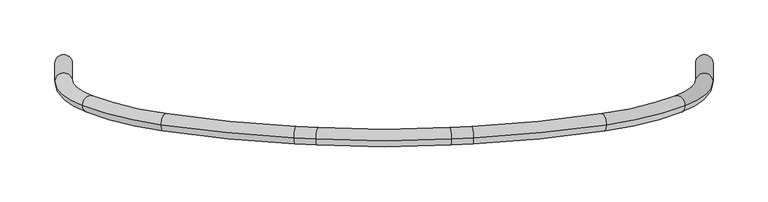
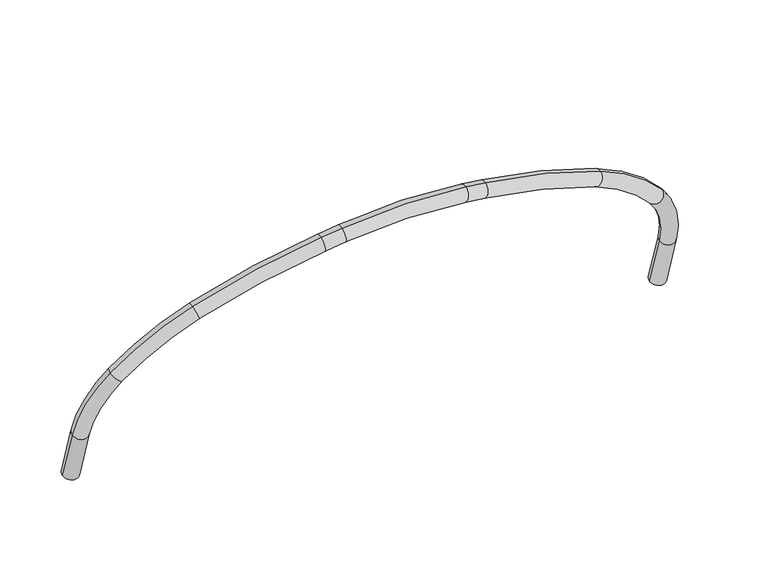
"""IFC4 building model written with IfcOpenShell, lengths in millimetres: furniture geometry, Norr11 - Fave Chair : Norr11 - Fave Chair."""

from ifc_helpers import new_model, si_unit, point, frame, origin, place, context, project, spatial, circle_curve, ellipse_curve, trimmed, source, transform, mapped, element, save
from ifc_brep_helpers import plane_surface, cylinder_surface, revolved_surface, advanced_brep


def furniture_c52432c8(model_context):
    return source(origin(), model_context, "Body", "AdvancedBrep", [
        advanced_brep(
        [(284.0372531, 404.7890291, 79.2824473), (300.0372531, 404.7890291, 79.2824473), (284.0372531, 388.1687806, 131.7111354), (300.0372531, 388.1687806, 131.7111354), (274.7474474, 365.9741223, 201.7243375), (262.1392754, 368.950834, 192.3342797), (203.1065204, 348.4431812, 257.0258115), (196.0925821, 352.7888336, 243.3174209), (81.8908427, 336.5414631, 294.5698628), (79.1124718, 341.3029903, 279.5495927), (59.0350596, 340.2331934, 282.9242743), (61.8134305, 335.4716662, 297.9445444), (-61.8134305, 335.4716662, 297.9445444), (-59.0350596, 340.2331934, 282.9242743), (-79.1124718, 341.3029903, 279.5495927), (-81.8908427, 336.5414631, 294.5698628), (-203.1065204, 348.4431812, 257.0258115), (-196.0925821, 352.7888336, 243.3174209), (-274.7474474, 365.9741223, 201.7243375), (-262.1392754, 368.950834, 192.3342797), (-300.0372531, 388.1687806, 131.7111354), (-284.0372531, 388.1687806, 131.7111354), (-284.0372531, 404.7890291, 79.2824473), (-300.0372531, 404.7890291, 79.2824473)],
        [
            (0, 1, circle_curve(frame((292.0372531, 404.7890291, 79.2824473), z_axis=(0.0, 0.30218633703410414, -0.9532488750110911), x_axis=(1.0, 0.0, 0.0)), 8.0)),
            (1, 0, circle_curve(frame((292.0372531, 404.7890291, 79.2824473), z_axis=(0.0, 0.30218633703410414, -0.9532488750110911), x_axis=(1.0, 0.0, 0.0)), 8.0)),
            (0, 2),
            (2, 3, circle_curve(frame((292.0372531, 388.1687806, 131.7111354), z_axis=(0.0, 0.30218633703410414, -0.9532488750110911), x_axis=(1.0, 0.0, 0.0)), 8.0)),
            (3, 1),
            (3, 2, circle_curve(frame((292.0372531, 388.1687806, 131.7111354), z_axis=(0.0, 0.30218633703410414, -0.9532488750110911), x_axis=(1.0, 0.0, 0.0)), 8.0)),
            (4, 3, circle_curve(frame((180.7396657, 388.1687806, 131.7111354), z_axis=(0.0, 0.9532488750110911, 0.30218633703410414), x_axis=(1.0, 0.0, 0.0)), 119.2975873)),
            (2, 5, circle_curve(frame((180.7396657, 388.1687806, 131.7111354), z_axis=(0.0, -0.9532488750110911, -0.30218633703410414), x_axis=(1.0, 0.0, 0.0)), 103.2975873)),
            (5, 4, circle_curve(frame((268.4433614, 367.4624781, 197.0293086), z_axis=(0.6156614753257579, 0.23812608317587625, -0.7511703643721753), x_axis=(0.7880107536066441, -0.18604448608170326, 0.5868786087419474)), 8.0)),
            (4, 5, circle_curve(frame((268.4433614, 367.4624781, 197.0293086), z_axis=(0.6156614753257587, 0.23812608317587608, -0.7511703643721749), x_axis=(0.7880107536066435, -0.18604448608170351, 0.5868786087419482)), 8.0)),
            (6, 4, circle_curve(frame((113.2845588, 404.0945159, 81.4732939), z_axis=(0.0, 0.9532488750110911, 0.30218633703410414), x_axis=(0.7880107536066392, -0.18604448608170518, 0.5868786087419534)), 204.8993468)),
            (5, 7, circle_curve(frame((113.2845588, 404.0945159, 81.4732939), z_axis=(0.0, -0.9532488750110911, -0.30218633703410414), x_axis=(0.7880107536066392, -0.18604448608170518, 0.5868786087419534)), 188.8993468)),
            (7, 6, circle_curve(frame((199.5995512, 350.6160074, 250.1716162), z_axis=(0.8987940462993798, 0.13246977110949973, -0.41787680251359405), x_axis=(0.4383711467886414, -0.2716032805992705, 0.8567744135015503)), 8.0)),
            (6, 7, circle_curve(frame((199.5995512, 350.6160074, 250.1716162), z_axis=(0.8987940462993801, 0.13246977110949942, -0.41787680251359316), x_axis=(0.43837114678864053, -0.2716032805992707, 0.8567744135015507)), 8.0)),
            (8, 6, circle_curve(frame((2.3779783, 472.8093283, -135.2880536), z_axis=(0.0, 0.9532488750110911, 0.30218633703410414), x_axis=(0.43837114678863, -0.2716032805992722, 0.8567744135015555)), 457.8963365)),
            (7, 9, circle_curve(frame((2.3779783, 472.8093283, -135.2880536), z_axis=(0.0, -0.9532488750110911, -0.30218633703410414), x_axis=(0.43837114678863, -0.2716032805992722, 0.8567744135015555)), 441.8963365)),
            (9, 8, circle_curve(frame((80.5016572, 338.9222267, 287.0597277), z_axis=(0.9848077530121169, 0.0524741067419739, -0.16552993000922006), x_axis=(0.17364817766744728, -0.29759544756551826, 0.938766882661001)), 8.0)),
            (8, 9, circle_curve(frame((80.5016572, 338.9222267, 287.0597277), z_axis=(0.9848077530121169, 0.05247410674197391, -0.1655299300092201), x_axis=(0.17364817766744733, -0.29759544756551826, 0.938766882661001)), 8.0)),
            (9, 10),
            (10, 11, circle_curve(frame((60.424245, 337.8524298, 290.4344094), z_axis=(0.984807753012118, 0.052474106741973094, -0.1655299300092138), x_axis=(0.17364817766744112, -0.2975954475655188, 0.938766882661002)), 8.0)),
            (11, 8),
            (11, 10, circle_curve(frame((60.424245, 337.8524298, 290.4344094), z_axis=(0.984807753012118, 0.052474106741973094, -0.1655299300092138), x_axis=(0.17364817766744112, -0.2975954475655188, 0.938766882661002)), 8.0)),
            (12, 11, circle_curve(frame((0.0, 441.4065269, -36.2277008), z_axis=(0.0, 0.9532488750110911, 0.30218633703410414), x_axis=(0.17364817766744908, -0.29759544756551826, 0.9387668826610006)), 355.9693587)),
            (10, 13, circle_curve(frame((0.0, 441.4065269, -36.2277008), z_axis=(0.0, -0.9532488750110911, -0.30218633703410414), x_axis=(0.17364817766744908, -0.29759544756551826, 0.9387668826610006)), 339.9693587)),
            (13, 12, circle_curve(frame((-60.424245, 337.8524298, 290.4344094), z_axis=(0.9848077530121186, -0.05247410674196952, 0.16552993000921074), x_axis=(-0.17364817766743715, -0.2975954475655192, 0.9387668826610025)), 8.0)),
            (12, 13, circle_curve(frame((-60.424245, 337.8524298, 290.4344094), z_axis=(0.9848077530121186, -0.05247410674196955, 0.1655299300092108), x_axis=(-0.1736481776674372, -0.2975954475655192, 0.9387668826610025)), 8.0)),
            (13, 14),
            (14, 15, circle_curve(frame((-80.5016572, 338.9222267, 287.0597277), z_axis=(0.9848077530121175, -0.052474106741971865, 0.1655299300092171), x_axis=(-0.17364817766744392, -0.2975954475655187, 0.9387668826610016)), 8.0)),
            (15, 12),
            (15, 14, circle_curve(frame((-80.5016572, 338.9222267, 287.0597277), z_axis=(0.9848077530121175, -0.052474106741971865, 0.1655299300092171), x_axis=(-0.17364817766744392, -0.2975954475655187, 0.9387668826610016)), 8.0)),
            (16, 15, circle_curve(frame((-2.3779783, 472.8093283, -135.2880536), z_axis=(0.0, 0.9532488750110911, 0.30218633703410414), x_axis=(-0.17364817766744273, -0.2975954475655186, 0.9387668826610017)), 457.8963365)),
            (14, 17, circle_curve(frame((-2.3779783, 472.8093283, -135.2880536), z_axis=(0.0, -0.9532488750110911, -0.30218633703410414), x_axis=(-0.17364817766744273, -0.2975954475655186, 0.9387668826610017)), 441.8963365)),
            (17, 16, circle_curve(frame((-199.5995512, 350.6160074, 250.1716162), z_axis=(0.8987940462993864, -0.1324697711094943, 0.4178768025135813), x_axis=(-0.43837114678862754, -0.27160328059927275, 0.8567744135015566)), 8.0)),
            (16, 17, circle_curve(frame((-199.5995512, 350.6160074, 250.1716162), z_axis=(0.8987940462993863, -0.13246977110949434, 0.4178768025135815), x_axis=(-0.4383711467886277, -0.27160328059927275, 0.8567744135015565)), 8.0)),
            (18, 16, circle_curve(frame((-113.2845588, 404.0945159, 81.4732939), z_axis=(0.0, 0.9532488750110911, 0.30218633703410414), x_axis=(-0.4383711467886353, -0.2716032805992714, 0.856774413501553)), 204.8993468)),
            (17, 19, circle_curve(frame((-113.2845588, 404.0945159, 81.4732939), z_axis=(0.0, -0.9532488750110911, -0.30218633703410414), x_axis=(-0.4383711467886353, -0.2716032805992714, 0.856774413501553)), 188.8993468)),
            (19, 18, circle_curve(frame((-268.4433614, 367.4624781, 197.0293086), z_axis=(0.6156614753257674, -0.23812608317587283, 0.7511703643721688), x_axis=(-0.7880107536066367, -0.18604448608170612, 0.5868786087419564)), 8.0)),
            (18, 19, circle_curve(frame((-268.4433614, 367.4624781, 197.0293086), z_axis=(0.6156614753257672, -0.23812608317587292, 0.751170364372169), x_axis=(-0.788010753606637, -0.18604448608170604, 0.5868786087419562)), 8.0)),
            (20, 18, circle_curve(frame((-180.7396657, 388.1687806, 131.7111354), z_axis=(0.0, 0.9532488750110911, 0.30218633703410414), x_axis=(-0.7880107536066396, -0.186044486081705, 0.5868786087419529)), 119.2975873)),
            (19, 21, circle_curve(frame((-180.7396657, 388.1687806, 131.7111354), z_axis=(0.0, -0.9532488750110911, -0.30218633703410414), x_axis=(-0.7880107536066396, -0.186044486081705, 0.5868786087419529)), 103.2975873)),
            (21, 20, circle_curve(frame((-292.0372531, 388.1687806, 131.7111354), z_axis=(0.0, -0.3021863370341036, 0.9532488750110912), x_axis=(-1.0, 0.0, 0.0)), 8.0)),
            (20, 21, circle_curve(frame((-292.0372531, 388.1687806, 131.7111354), z_axis=(0.0, -0.3021863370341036, 0.9532488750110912), x_axis=(-1.0, 0.0, 0.0)), 8.0)),
            (22, 23, circle_curve(frame((-292.0372531, 404.7890291, 79.2824473), z_axis=(0.0, 0.302186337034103, -0.9532488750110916), x_axis=(-1.0, 0.0, 0.0)), 8.0)),
            (23, 22, circle_curve(frame((-292.0372531, 404.7890291, 79.2824473), z_axis=(0.0, 0.302186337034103, -0.9532488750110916), x_axis=(-1.0, 0.0, 0.0)), 8.0)),
            (21, 22),
            (23, 20),
        ],
        [
            plane_surface(frame((284.0678943, 409.968241, 80.9242924), z_axis=(0.0, 0.30218633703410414, -0.9532488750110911), x_axis=(0.0, 0.9532488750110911, 0.30218633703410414))),
            cylinder_surface(frame((292.0372531, 404.7890291, 79.2824473), z_axis=(0.0, 0.30218633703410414, -0.9532488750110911), x_axis=(1.0, 0.0, 0.0)), 8.0),
            revolved_surface(trimmed(ellipse_curve(frame((292.0372531, 388.1687806, 131.7111354), z_axis=(0.0, 0.3021863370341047, -0.9532488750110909), x_axis=(1.0, 0.0, 0.0)), 8.0, 8.0), [point((284.0372531, 388.1687806, 131.7111354))], [point((300.0372531, 388.1687806, 131.7111354))], True, "CARTESIAN"), (180.7396657, 393.3479924, 133.3529805), (0.0, -0.9532488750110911, -0.30218633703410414)),
            revolved_surface(trimmed(ellipse_curve(frame((292.0372531, 388.1687806, 131.7111354), z_axis=(0.0, 0.3021863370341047, -0.9532488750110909), x_axis=(1.0, 0.0, 0.0)), 8.0, 8.0), [point((300.0372531, 388.1687806, 131.7111354))], [point((284.0372531, 388.1687806, 131.7111354))], True, "CARTESIAN"), (180.7396657, 393.3479924, 133.3529805), (0.0, -0.9532488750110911, -0.30218633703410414)),
            revolved_surface(trimmed(ellipse_curve(frame((268.4433614, 367.4624781, 197.0293086), z_axis=(0.6156614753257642, 0.23812608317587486, -0.7511703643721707), x_axis=(0.7880107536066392, -0.1860444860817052, 0.5868786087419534)), 8.0, 8.0), [point((262.1392754, 368.950834, 192.3342797))], [point((274.7474474, 365.9741223, 201.7243375))], True, "CARTESIAN"), (113.2845588, 409.2737278, 83.1151391), (0.0, -0.9532488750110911, -0.30218633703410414)),
            revolved_surface(trimmed(ellipse_curve(frame((268.4433614, 367.4624781, 197.0293086), z_axis=(0.6156614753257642, 0.23812608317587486, -0.7511703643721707), x_axis=(0.7880107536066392, -0.1860444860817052, 0.5868786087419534)), 8.0, 8.0), [point((274.7474474, 365.9741223, 201.7243375))], [point((262.1392754, 368.950834, 192.3342797))], True, "CARTESIAN"), (113.2845588, 409.2737278, 83.1151391), (0.0, -0.9532488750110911, -0.30218633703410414)),
            revolved_surface(trimmed(ellipse_curve(frame((199.5995512, 350.6160074, 250.1716162), z_axis=(0.8987940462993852, 0.13246977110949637, -0.4178768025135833), x_axis=(0.43837114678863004, -0.27160328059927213, 0.8567744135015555)), 8.0, 8.0), [point((196.0925821, 352.7888336, 243.3174209))], [point((203.1065204, 348.4431812, 257.0258115))], True, "CARTESIAN"), (2.3779783, 477.9885402, -133.6462084), (0.0, -0.9532488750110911, -0.30218633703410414)),
            revolved_surface(trimmed(ellipse_curve(frame((199.5995512, 350.6160074, 250.1716162), z_axis=(0.8987940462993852, 0.13246977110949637, -0.4178768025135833), x_axis=(0.43837114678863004, -0.27160328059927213, 0.8567744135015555)), 8.0, 8.0), [point((203.1065204, 348.4431812, 257.0258115))], [point((196.0925821, 352.7888336, 243.3174209))], True, "CARTESIAN"), (2.3779783, 477.9885402, -133.6462084), (0.0, -0.9532488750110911, -0.30218633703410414)),
            cylinder_surface(frame((80.5016572, 338.9222267, 287.0597277), z_axis=(0.984807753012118, 0.052474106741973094, -0.1655299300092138), x_axis=(0.17364817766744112, -0.2975954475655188, 0.938766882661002)), 8.0),
            revolved_surface(trimmed(ellipse_curve(frame((60.424245, 337.8524298, 290.4344094), z_axis=(0.9848077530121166, 0.05247410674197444, -0.16552993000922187), x_axis=(0.17364817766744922, -0.2975954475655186, 0.9387668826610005)), 8.0, 8.0), [point((59.0350596, 340.2331934, 282.9242743))], [point((61.8134305, 335.4716662, 297.9445444))], True, "CARTESIAN"), (0.0, 446.5857387, -34.5858557), (0.0, -0.9532488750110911, -0.30218633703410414)),
            revolved_surface(trimmed(ellipse_curve(frame((60.424245, 337.8524298, 290.4344094), z_axis=(0.9848077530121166, 0.05247410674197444, -0.16552993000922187), x_axis=(0.17364817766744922, -0.2975954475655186, 0.9387668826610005)), 8.0, 8.0), [point((61.8134305, 335.4716662, 297.9445444))], [point((59.0350596, 340.2331934, 282.9242743))], True, "CARTESIAN"), (0.0, 446.5857387, -34.5858557), (0.0, -0.9532488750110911, -0.30218633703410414)),
            cylinder_surface(frame((-60.424245, 337.8524298, 290.4344094), z_axis=(0.9848077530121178, -0.05247410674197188, 0.16552993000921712), x_axis=(-0.17364817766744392, -0.2975954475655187, 0.9387668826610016)), 8.0),
            revolved_surface(trimmed(ellipse_curve(frame((-80.5016572, 338.9222267, 287.0597277), z_axis=(0.9848077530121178, -0.05247410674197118, 0.16552993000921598), x_axis=(-0.17364817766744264, -0.29759544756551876, 0.9387668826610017)), 8.0, 8.0), [point((-79.1124718, 341.3029903, 279.5495927))], [point((-81.8908427, 336.5414631, 294.5698628))], True, "CARTESIAN"), (-2.3779783, 477.9885402, -133.6462084), (0.0, -0.9532488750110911, -0.30218633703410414)),
            revolved_surface(trimmed(ellipse_curve(frame((-80.5016572, 338.9222267, 287.0597277), z_axis=(0.9848077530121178, -0.05247410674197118, 0.16552993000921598), x_axis=(-0.17364817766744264, -0.29759544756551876, 0.9387668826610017)), 8.0, 8.0), [point((-81.8908427, 336.5414631, 294.5698628))], [point((-79.1124718, 341.3029903, 279.5495927))], True, "CARTESIAN"), (-2.3779783, 477.9885402, -133.6462084), (0.0, -0.9532488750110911, -0.30218633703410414)),
            revolved_surface(trimmed(ellipse_curve(frame((-199.5995512, 350.6160074, 250.1716162), z_axis=(0.8987940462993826, -0.13246977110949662, 0.41787680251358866), x_axis=(-0.43837114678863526, -0.2716032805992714, 0.856774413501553)), 8.0, 8.0), [point((-196.0925821, 352.7888336, 243.3174209))], [point((-203.1065204, 348.4431812, 257.0258115))], True, "CARTESIAN"), (-113.2845588, 409.2737278, 83.1151391), (0.0, -0.9532488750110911, -0.30218633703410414)),
            revolved_surface(trimmed(ellipse_curve(frame((-199.5995512, 350.6160074, 250.1716162), z_axis=(0.8987940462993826, -0.13246977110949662, 0.41787680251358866), x_axis=(-0.43837114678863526, -0.2716032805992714, 0.856774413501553)), 8.0, 8.0), [point((-203.1065204, 348.4431812, 257.0258115))], [point((-196.0925821, 352.7888336, 243.3174209))], True, "CARTESIAN"), (-113.2845588, 409.2737278, 83.1151391), (0.0, -0.9532488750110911, -0.30218633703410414)),
            revolved_surface(trimmed(ellipse_curve(frame((-268.4433614, 367.4624781, 197.0293086), z_axis=(0.6156614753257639, -0.2381260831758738, 0.7511703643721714), x_axis=(-0.7880107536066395, -0.18604448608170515, 0.5868786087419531)), 8.0, 8.0), [point((-262.1392754, 368.950834, 192.3342797))], [point((-274.7474474, 365.9741223, 201.7243375))], True, "CARTESIAN"), (-180.7396657, 393.3479924, 133.3529805), (0.0, -0.9532488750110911, -0.30218633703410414)),
            revolved_surface(trimmed(ellipse_curve(frame((-268.4433614, 367.4624781, 197.0293086), z_axis=(0.6156614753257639, -0.2381260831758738, 0.7511703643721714), x_axis=(-0.7880107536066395, -0.18604448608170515, 0.5868786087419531)), 8.0, 8.0), [point((-274.7474474, 365.9741223, 201.7243375))], [point((-262.1392754, 368.950834, 192.3342797))], True, "CARTESIAN"), (-180.7396657, 393.3479924, 133.3529805), (0.0, -0.9532488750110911, -0.30218633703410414)),
            plane_surface(frame((-284.0678943, 409.968241, 80.9242924), z_axis=(0.0, 0.30218633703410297, -0.9532488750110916), x_axis=(0.0, 0.9532488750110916, 0.30218633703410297))),
            cylinder_surface(frame((-292.0372531, 388.1687806, 131.7111354), z_axis=(0.0, -0.302186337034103, 0.9532488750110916), x_axis=(-1.0, 0.0, 0.0)), 8.0),
        ],
        [
            (0, [[1, 2]]),
            (1, [[-1, 3, 4, 5]]),
            (1, [[-2, -5, 6, -3]]),
            (2, [[7, -4, 8, 9]]),
            (3, [[-8, -6, -7, 10]]),
            (4, [[11, -9, 12, 13]]),
            (5, [[-12, -10, -11, 14]]),
            (6, [[15, -13, 16, 17]]),
            (7, [[-16, -14, -15, 18]]),
            (8, [[-17, 19, 20, 21]]),
            (8, [[-18, -21, 22, -19]]),
            (9, [[23, -20, 24, 25]]),
            (10, [[-24, -22, -23, 26]]),
            (11, [[-25, 27, 28, 29]]),
            (11, [[-26, -29, 30, -27]]),
            (12, [[31, -28, 32, 33]]),
            (13, [[-32, -30, -31, 34]]),
            (14, [[35, -33, 36, 37]]),
            (15, [[-36, -34, -35, 38]]),
            (16, [[39, -37, 40, 41]]),
            (17, [[-40, -38, -39, 42]]),
            (18, [[43, 44]]),
            (19, [[-41, 45, -44, 46]]),
            (19, [[-42, -46, -43, -45]]),
        ],
    ),
    ])


if __name__ == "__main__":
    model = new_model("IFC4")
    model_context = context("Model", 3, world=origin())
    ifc_project = project(units=[si_unit("LENGTHUNIT", "METRE", prefix="MILLI")], contexts=[model_context])
    site = spatial("IfcSite", under=ifc_project)
    building = spatial("IfcBuilding", under=site)
    placement = place(None, origin())
    furniture_shape = furniture_c52432c8(model_context)
    element("IfcFurniture", 1, ObjectType="Norr11 - Fave Chair : Norr11 - Fave Chair", at=placement, inside=building, context=model_context, shape_type="MappedRepresentation", body=[
        mapped(furniture_shape, transform((0.0, 0.0, 0.0), x_axis=(1.0, 0.0, 0.0), y_axis=(0.0, 1.0, 0.0), z_axis=(0.0, 0.0, 1.0))),
    ])
    save(model, "model.ifc")
